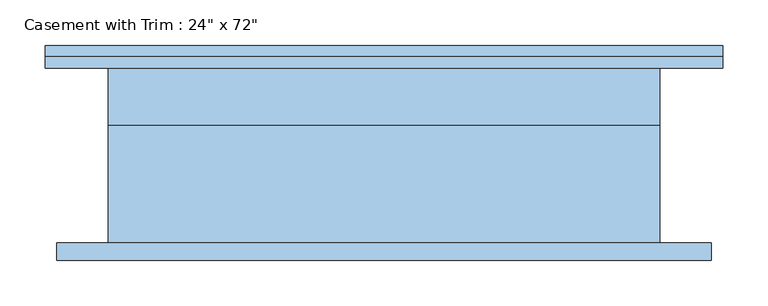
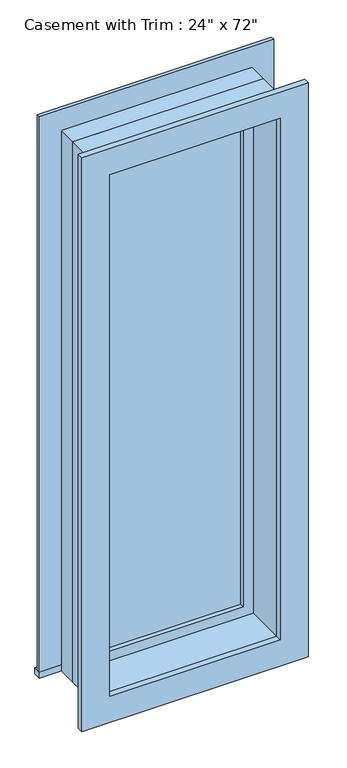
"""IFC4 building model written with IfcOpenShell, lengths in millimetres: window geometry."""

from ifc_helpers import new_model, si_unit, frame, origin, place, context, project, spatial, polyline, outline, extrude, source, transform, mapped, element, save


def window_8ec664a6(model_context):
    return source(origin(), model_context, "Body", "SweptSolid", [
        extrude(outline(polyline([(-374.65, 122.2375), (374.65, 122.2375), (374.65, 96.8375), (-374.65, 96.8375), (-374.65, 122.2375)])), frame((0.0, 0.0, 304.8), z_axis=(0.0, 0.0, 1.0), x_axis=(1.0, 0.0, 0.0)), (0.0, 0.0, 1.0), 19.05),
        extrude(outline(polyline([(2114.55, -285.75), (2114.55, 285.75), (323.85, 285.75), (323.85, 374.65), (2203.45, 374.65), (2203.45, -374.65), (323.85, -374.65), (323.85, -285.75), (2114.55, -285.75)])), frame((0.0, 96.8375, 0.0), z_axis=(0.0, 1.0, 0.0), x_axis=(0.0, 0.0, 1.0)), (0.0, 0.0, 1.0), 12.7),
        extrude(outline(polyline([(2190.75, 361.95), (2190.75, -361.95), (247.65, -361.95), (247.65, 361.95), (2190.75, 361.95)]), holes=[polyline([(2101.85, 273.05), (336.55, 273.05), (336.55, -273.05), (2101.85, -273.05), (2101.85, 273.05)])]), frame((0.0, -115.8875, 0.0), z_axis=(0.0, 1.0, 0.0), x_axis=(0.0, 0.0, 1.0)), (0.0, 0.0, 1.0), 19.05),
        extrude(outline(polyline([(241.3, 49.2125), (-241.3, 49.2125), (-241.3, 61.9125), (241.3, 61.9125), (241.3, 49.2125)])), frame((0.0, 0.0, 368.3), z_axis=(0.0, 0.0, 1.0), x_axis=(1.0, 0.0, 0.0)), (0.0, 0.0, 1.0), 1701.8),
        extrude(outline(polyline([(2114.55, -285.75), (323.85, -285.75), (323.85, 285.75), (2114.55, 285.75), (2114.55, -285.75)]), holes=[polyline([(2070.1, -241.3), (2070.1, 241.3), (368.3, 241.3), (368.3, -241.3), (2070.1, -241.3)])]), frame((0.0, 33.3375, 0.0), z_axis=(0.0, 1.0, 0.0), x_axis=(0.0, 0.0, 1.0)), (0.0, 0.0, 1.0), 44.45),
        extrude(outline(polyline([(2133.6, -304.8), (304.8, -304.8), (304.8, 304.8), (2133.6, 304.8), (2133.6, -304.8)]), holes=[polyline([(2101.85, -273.05), (2101.85, 273.05), (336.55, 273.05), (336.55, -273.05), (2101.85, -273.05)])]), frame((0.0, -96.8375, 0.0), z_axis=(0.0, 1.0, 0.0), x_axis=(0.0, 0.0, 1.0)), (0.0, 0.0, 1.0), 130.175),
        extrude(outline(polyline([(2133.6, 304.8), (2133.6, -304.8), (304.8, -304.8), (304.8, 304.8), (2133.6, 304.8)]), holes=[polyline([(2114.55, 285.75), (323.85, 285.75), (323.85, -285.75), (2114.55, -285.75), (2114.55, 285.75)])]), frame((0.0, 33.3375, 0.0), z_axis=(0.0, 1.0, 0.0), x_axis=(0.0, 0.0, 1.0)), (0.0, 0.0, 1.0), 63.5),
    ])


if __name__ == "__main__":
    model = new_model("IFC4")
    model_context = context("Model", 3, world=origin())
    ifc_project = project(units=[si_unit("LENGTHUNIT", "METRE", prefix="MILLI")], contexts=[model_context])
    site = spatial("IfcSite", under=ifc_project)
    building = spatial("IfcBuilding", under=site)
    placement = place(None, origin())
    window_shape = window_8ec664a6(model_context)
    element("IfcWindow", 1, ObjectType="Casement with Trim : 24\" x 72\"", at=placement, inside=building, context=model_context, shape_type="MappedRepresentation", body=[
        mapped(window_shape, transform((0.0, 0.0, 0.0), x_axis=(1.0, 0.0, 0.0), y_axis=(0.0, 1.0, 0.0), z_axis=(0.0, 0.0, 1.0))),
    ])
    save(model, "model.ifc")
